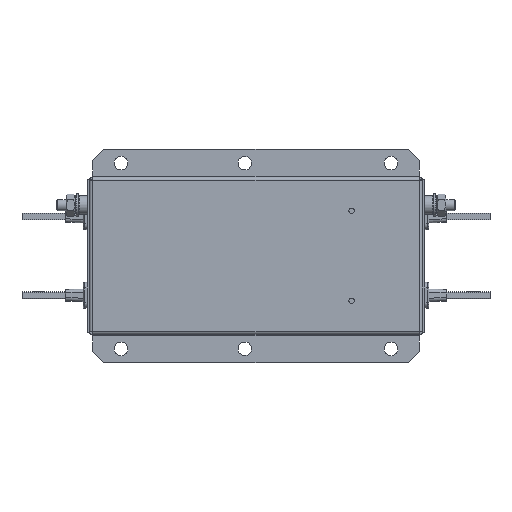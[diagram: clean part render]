
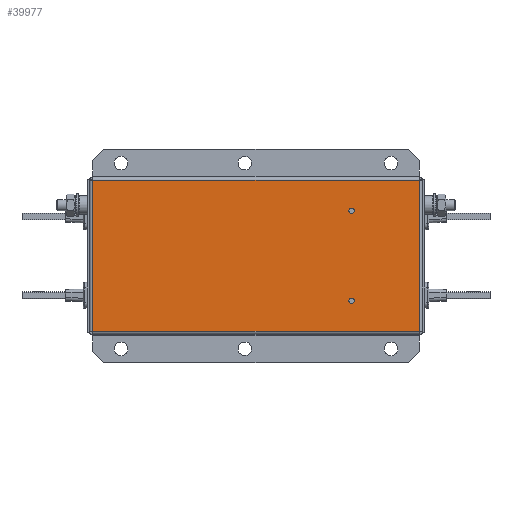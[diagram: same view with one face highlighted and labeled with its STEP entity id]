
A CAD part, top view. The second image highlights one B-rep face of the part: STEP entity #39977.
In plain terms, the highlighted planar face has unit normal (0, 0, 1).
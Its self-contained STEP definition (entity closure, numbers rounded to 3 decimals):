
#36307=CARTESIAN_POINT('',(87.4,40.,110.0));
#36308=VERTEX_POINT('',#36307);
#36309=CARTESIAN_POINT('',(85.,40.,110.0));
#36310=DIRECTION('',(0.0,0.0,-1.0));
#36311=DIRECTION('',(1.0,0.0,0.0));
#36312=AXIS2_PLACEMENT_3D('',#36309,#36310,#36311);
#36313=CIRCLE('',#36312,2.4);
#36314=EDGE_CURVE('',#36308,#36308,#36313,.T.);
#36365=CARTESIAN_POINT('',(87.4,-40.0,110.0));
#36366=VERTEX_POINT('',#36365);
#36367=CARTESIAN_POINT('',(85.,-40.0,110.0));
#36368=DIRECTION('',(0.0,0.0,-1.0));
#36369=DIRECTION('',(1.0,0.0,0.0));
#36370=AXIS2_PLACEMENT_3D('',#36367,#36368,#36369);
#36371=CIRCLE('',#36370,2.4);
#36372=EDGE_CURVE('',#36366,#36366,#36371,.T.);
#37155=CARTESIAN_POINT('',(-145.2,67.2,110.0));
#37156=VERTEX_POINT('',#37155);
#37731=CARTESIAN_POINT('',(145.2,67.2,110.0));
#37732=VERTEX_POINT('',#37731);
#38309=CARTESIAN_POINT('',(-145.2,67.2,110.0));
#38310=DIRECTION('',(1.0,0.0,0.0));
#38311=VECTOR('',#38310,290.4);
#38312=LINE('',#38309,#38311);
#38313=EDGE_CURVE('',#37156,#37732,#38312,.T.);
#38628=CARTESIAN_POINT('',(-145.2,-67.2,110.0));
#38629=VERTEX_POINT('',#38628);
#38980=CARTESIAN_POINT('',(-145.2,-67.2,110.0));
#38981=DIRECTION('',(0.0,1.0,0.0));
#38982=VECTOR('',#38981,134.4);
#38983=LINE('',#38980,#38982);
#38984=EDGE_CURVE('',#38629,#37156,#38983,.T.);
#39400=CARTESIAN_POINT('',(145.2,-67.2,110.0));
#39401=VERTEX_POINT('',#39400);
#39717=CARTESIAN_POINT('',(145.2,67.2,110.0));
#39718=DIRECTION('',(0.0,-1.0,0.0));
#39719=VECTOR('',#39718,134.4);
#39720=LINE('',#39717,#39719);
#39721=EDGE_CURVE('',#37732,#39401,#39720,.T.);
#39949=CARTESIAN_POINT('',(-145.2,-67.2,110.0));
#39950=DIRECTION('',(1.0,0.0,0.0));
#39951=VECTOR('',#39950,290.4);
#39952=LINE('',#39949,#39951);
#39953=EDGE_CURVE('',#38629,#39401,#39952,.T.);
#39960=CARTESIAN_POINT('',(0.0,-67.2,110.0));
#39961=DIRECTION('',(0.0,0.0,1.0));
#39962=DIRECTION('',(1.0,0.0,0.0));
#39963=AXIS2_PLACEMENT_3D('',#39960,#39961,#39962);
#39964=PLANE('',#39963);
#39965=ORIENTED_EDGE('',*,*,#39721,.F.);
#39966=ORIENTED_EDGE('',*,*,#38313,.F.);
#39967=ORIENTED_EDGE('',*,*,#38984,.F.);
#39968=ORIENTED_EDGE('',*,*,#39953,.T.);
#39969=EDGE_LOOP('',(#39965,#39966,#39967,#39968));
#39970=FACE_OUTER_BOUND('',#39969,.T.);
#39971=ORIENTED_EDGE('',*,*,#36314,.T.);
#39972=EDGE_LOOP('',(#39971));
#39973=FACE_BOUND('',#39972,.T.);
#39974=ORIENTED_EDGE('',*,*,#36372,.T.);
#39975=EDGE_LOOP('',(#39974));
#39976=FACE_BOUND('',#39975,.T.);
#39977=ADVANCED_FACE('',(#39970,#39973,#39976),#39964,.T.);
